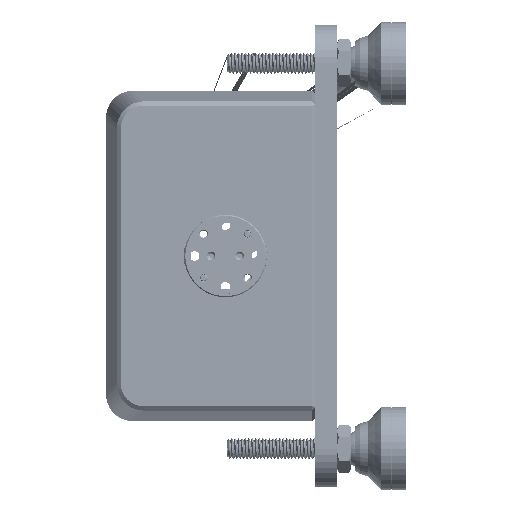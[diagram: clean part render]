
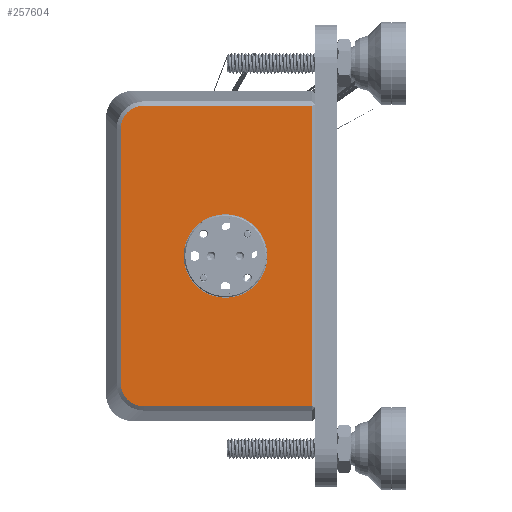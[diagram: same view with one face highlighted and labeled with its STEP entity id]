
A CAD part, left-side view. The second image highlights one B-rep face of the part: STEP entity #257604.
In plain terms, the highlighted planar face has unit normal (-1, 0, 0).
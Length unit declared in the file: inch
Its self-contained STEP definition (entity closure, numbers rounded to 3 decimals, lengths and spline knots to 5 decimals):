
#21175 = DIRECTION ( 'NONE',  ( 0., 0., 1. ) ) ;
#23281 = CARTESIAN_POINT ( 'NONE',  ( -4.25, -6.65778, -1.18364 ) ) ;
#26622 = CARTESIAN_POINT ( 'NONE',  ( -4.25, -6.66321, -1.21114 ) ) ;
#34192 = EDGE_LOOP ( 'NONE', ( #198173, #107708 ) ) ;
#35728 = FACE_BOUND ( 'NONE', #34192, .T. ) ;
#42730 = CARTESIAN_POINT ( 'NONE',  ( -4.25, -6.76124, 1.33885 ) ) ;
#47181 = VECTOR ( 'NONE', #245510, 39.37008 ) ;
#50203 = EDGE_CURVE ( 'NONE', #92500, #87226, #301413, .T. ) ;
#52209 = CARTESIAN_POINT ( 'NONE',  ( -4.25, -6.83915, -1.36508 ) ) ;
#52580 = VERTEX_POINT ( 'NONE', #324564 ) ;
#63102 = VECTOR ( 'NONE', #311232, 39.37008 ) ;
#63274 = VERTEX_POINT ( 'NONE', #142128 ) ;
#66256 = CARTESIAN_POINT ( 'NONE',  ( -4.25, -7.47286, -1.36508 ) ) ;
#72557 = CARTESIAN_POINT ( 'NONE',  ( -4.25, -8.39286, 0. ) ) ;
#74462 = B_SPLINE_CURVE_WITH_KNOTS ( 'NONE', 3,
 ( #221785, #327692, #93991, #42730, #100754, #313817, #260834, #182374, #126308, #288165 ),
 .UNSPECIFIED., .F., .F.,
 ( 4, 2, 2, 2, 4 ),
 ( 0., 0.25, 0.5, 0.75, 1. ),
 .UNSPECIFIED. ) ;
#77848 = CARTESIAN_POINT ( 'NONE',  ( -4.25, -6.81171, -1.35965 ) ) ;
#85324 = FACE_OUTER_BOUND ( 'NONE', #240320, .T. ) ;
#86009 = ORIENTED_EDGE ( 'NONE', *, *, #311220, .T. ) ;
#87226 = VERTEX_POINT ( 'NONE', #174700 ) ;
#91468 = EDGE_CURVE ( 'NONE', #87226, #185506, #265118, .T. ) ;
#92500 = VERTEX_POINT ( 'NONE', #208198 ) ;
#93991 = CARTESIAN_POINT ( 'NONE',  ( -4.25, -6.81171, 1.35964 ) ) ;
#98611 = CARTESIAN_POINT ( 'NONE',  ( -4.25, -8.39286, 1.36508 ) ) ;
#99037 = CARTESIAN_POINT ( 'NONE',  ( -4.25, -7.60786, 0. ) ) ;
#100754 = CARTESIAN_POINT ( 'NONE',  ( -4.25, -6.738, 1.32336 ) ) ;
#101834 = CARTESIAN_POINT ( 'NONE',  ( -4.25, -6.6995, -1.28485 ) ) ;
#103495 = CARTESIAN_POINT ( 'NONE',  ( -4.25, -6.76124, -1.33884 ) ) ;
#106187 = VECTOR ( 'NONE', #334010, 39.37008 ) ;
#107708 = ORIENTED_EDGE ( 'NONE', *, *, #287352, .F. ) ;
#119128 = CIRCLE ( 'NONE', #227808, 0.38 ) ;
#125031 = AXIS2_PLACEMENT_3D ( 'NONE', #219835, #139821, #324062 ) ;
#126308 = CARTESIAN_POINT ( 'NONE',  ( -4.25, -6.65778, 1.1837 ) ) ;
#127376 = CARTESIAN_POINT ( 'NONE',  ( -4.25, -6.68401, -1.26162 ) ) ;
#129045 = CARTESIAN_POINT ( 'NONE',  ( -4.25, -6.65778, -1.15616 ) ) ;
#133463 = VECTOR ( 'NONE', #274028, 39.37008 ) ;
#139821 = DIRECTION ( 'NONE',  ( 1., 0., 0. ) ) ;
#142128 = CARTESIAN_POINT ( 'NONE',  ( -4.25, -8.39286, -1.36508 ) ) ;
#148085 = EDGE_CURVE ( 'NONE', #63274, #299839, #287312, .T. ) ;
#152224 = CARTESIAN_POINT ( 'NONE',  ( -4.25, -7.60786, -0.38 ) ) ;
#156291 = CARTESIAN_POINT ( 'NONE',  ( -4.25, -6.8667, -1.36508 ) ) ;
#158536 = VERTEX_POINT ( 'NONE', #152224 ) ;
#168356 = CARTESIAN_POINT ( 'NONE',  ( -4.25, -6.65778, 0. ) ) ;
#171127 = CARTESIAN_POINT ( 'NONE',  ( -4.25, -6.8667, 1.36508 ) ) ;
#171291 = CIRCLE ( 'NONE', #274736, 0.38 ) ;
#174700 = CARTESIAN_POINT ( 'NONE',  ( -4.25, -6.65778, -1.15616 ) ) ;
#175664 = DIRECTION ( 'NONE',  ( -1., 0., 0. ) ) ;
#181505 = ORIENTED_EDGE ( 'NONE', *, *, #91468, .T. ) ;
#182374 = CARTESIAN_POINT ( 'NONE',  ( -4.25, -6.66321, 1.21115 ) ) ;
#182569 = EDGE_CURVE ( 'NONE', #299839, #217034, #276197, .T. ) ;
#185506 = VERTEX_POINT ( 'NONE', #324141 ) ;
#198173 = ORIENTED_EDGE ( 'NONE', *, *, #319461, .F. ) ;
#201196 = DIRECTION ( 'NONE',  ( 0., 0., 1. ) ) ;
#208198 = CARTESIAN_POINT ( 'NONE',  ( -4.25, -6.65778, 1.15616 ) ) ;
#217034 = VERTEX_POINT ( 'NONE', #171127 ) ;
#219835 = CARTESIAN_POINT ( 'NONE',  ( -4.25, -7.47286, 0. ) ) ;
#221785 = CARTESIAN_POINT ( 'NONE',  ( -4.25, -6.8667, 1.36508 ) ) ;
#225794 = CARTESIAN_POINT ( 'NONE',  ( -4.25, -7.60786, 0. ) ) ;
#227808 = AXIS2_PLACEMENT_3D ( 'NONE', #225794, #330007, #21175 ) ;
#231297 = CARTESIAN_POINT ( 'NONE',  ( -4.25, -6.738, -1.32336 ) ) ;
#236692 = ORIENTED_EDGE ( 'NONE', *, *, #267072, .T. ) ;
#240320 = EDGE_LOOP ( 'NONE', ( #181505, #236692, #280372, #253990, #86009, #325634 ) ) ;
#245510 = DIRECTION ( 'NONE',  ( 0., 1., 0. ) ) ;
#250356 = LINE ( 'NONE', #66256, #106187 ) ;
#253990 = ORIENTED_EDGE ( 'NONE', *, *, #182569, .T. ) ;
#257604 = ADVANCED_FACE ( 'NONE', ( #35728, #85324 ), #269359, .F. ) ;
#260834 = CARTESIAN_POINT ( 'NONE',  ( -4.25, -6.68401, 1.26162 ) ) ;
#265118 = B_SPLINE_CURVE_WITH_KNOTS ( 'NONE', 3,
 ( #129045, #23281, #26622, #127376, #101834, #231297, #103495, #77848, #52209, #156291 ),
 .UNSPECIFIED., .F., .F.,
 ( 4, 2, 2, 2, 4 ),
 ( 0., 0.25, 0.5, 0.75, 1. ),
 .UNSPECIFIED. ) ;
#267072 = EDGE_CURVE ( 'NONE', #185506, #63274, #250356, .T. ) ;
#269359 = PLANE ( 'NONE',  #125031 ) ;
#274028 = DIRECTION ( 'NONE',  ( 0., 0., -1. ) ) ;
#274736 = AXIS2_PLACEMENT_3D ( 'NONE', #99037, #175664, #201196 ) ;
#276197 = LINE ( 'NONE', #298499, #47181 ) ;
#280372 = ORIENTED_EDGE ( 'NONE', *, *, #148085, .T. ) ;
#287312 = LINE ( 'NONE', #72557, #63102 ) ;
#287352 = EDGE_CURVE ( 'NONE', #158536, #52580, #171291, .T. ) ;
#288165 = CARTESIAN_POINT ( 'NONE',  ( -4.25, -6.65778, 1.15616 ) ) ;
#298499 = CARTESIAN_POINT ( 'NONE',  ( -4.25, -7.47286, 1.36508 ) ) ;
#299839 = VERTEX_POINT ( 'NONE', #98611 ) ;
#301413 = LINE ( 'NONE', #168356, #133463 ) ;
#311220 = EDGE_CURVE ( 'NONE', #217034, #92500, #74462, .T. ) ;
#311232 = DIRECTION ( 'NONE',  ( 0., 0., 1. ) ) ;
#313817 = CARTESIAN_POINT ( 'NONE',  ( -4.25, -6.6995, 1.28486 ) ) ;
#319461 = EDGE_CURVE ( 'NONE', #52580, #158536, #119128, .T. ) ;
#324062 = DIRECTION ( 'NONE',  ( 0., 0., -1. ) ) ;
#324141 = CARTESIAN_POINT ( 'NONE',  ( -4.25, -6.8667, -1.36508 ) ) ;
#324564 = CARTESIAN_POINT ( 'NONE',  ( -4.25, -7.60786, 0.38 ) ) ;
#325634 = ORIENTED_EDGE ( 'NONE', *, *, #50203, .T. ) ;
#327692 = CARTESIAN_POINT ( 'NONE',  ( -4.25, -6.83921, 1.36508 ) ) ;
#330007 = DIRECTION ( 'NONE',  ( -1., 0., 0. ) ) ;
#334010 = DIRECTION ( 'NONE',  ( 0., -1., 0. ) ) ;
